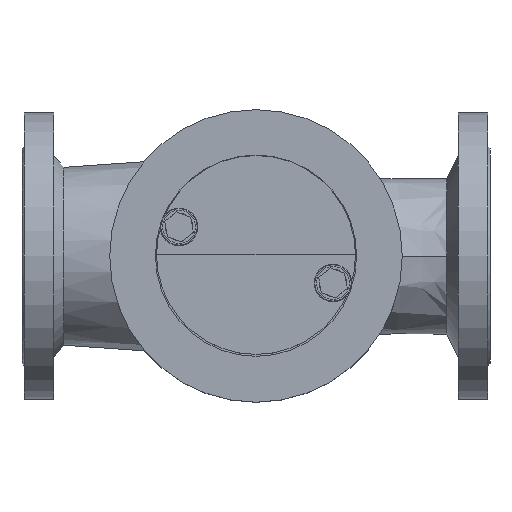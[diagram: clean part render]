
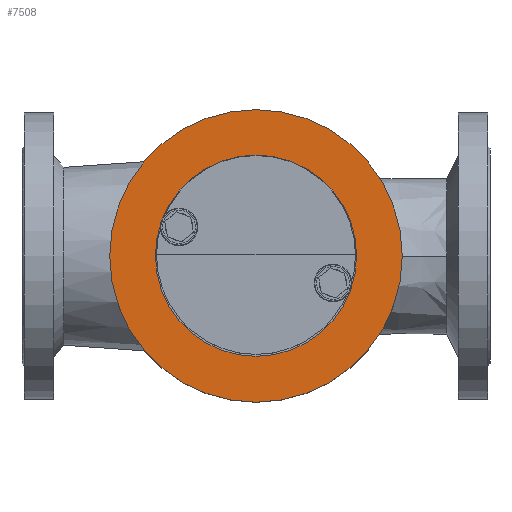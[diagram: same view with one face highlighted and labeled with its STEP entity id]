
A CAD part, top view. The second image highlights one B-rep face of the part: STEP entity #7508.
In plain terms, the highlighted planar face has unit normal (0, 0, 1).
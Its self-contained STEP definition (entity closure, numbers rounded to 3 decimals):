
#1292=FACE_BOUND('',#1917,.T.);
#1362=FACE_OUTER_BOUND('',#1916,.T.);
#1916=EDGE_LOOP('',(#4939,#4940));
#1917=EDGE_LOOP('',(#4941,#4942));
#2479=CIRCLE('',#8169,125.);
#2480=CIRCLE('',#8170,125.);
#2481=CIRCLE('',#8171,22.5);
#2482=CIRCLE('',#8172,22.5);
#3115=VERTEX_POINT('',#11780);
#3116=VERTEX_POINT('',#11781);
#3117=VERTEX_POINT('',#11784);
#3118=VERTEX_POINT('',#11785);
#3738=EDGE_CURVE('',#3115,#3116,#2479,.T.);
#3739=EDGE_CURVE('',#3116,#3115,#2480,.T.);
#3740=EDGE_CURVE('',#3117,#3118,#2481,.T.);
#3741=EDGE_CURVE('',#3118,#3117,#2482,.T.);
#4939=ORIENTED_EDGE('',*,*,#3738,.T.);
#4940=ORIENTED_EDGE('',*,*,#3739,.T.);
#4941=ORIENTED_EDGE('',*,*,#3740,.T.);
#4942=ORIENTED_EDGE('',*,*,#3741,.T.);
#6757=PLANE('',#8168);
#7508=ADVANCED_FACE('',(#1362,#1292),#6757,.T.);
#8168=AXIS2_PLACEMENT_3D('',#11779,#9391,#9392);
#8169=AXIS2_PLACEMENT_3D('',#11782,#9393,#9394);
#8170=AXIS2_PLACEMENT_3D('',#11783,#9395,#9396);
#8171=AXIS2_PLACEMENT_3D('',#11786,#9397,#9398);
#8172=AXIS2_PLACEMENT_3D('',#11787,#9399,#9400);
#9391=DIRECTION('center_axis',(0.,0.,1.));
#9392=DIRECTION('ref_axis',(0.,1.,0.));
#9393=DIRECTION('center_axis',(0.,0.,1.));
#9394=DIRECTION('ref_axis',(1.,0.,0.));
#9395=DIRECTION('center_axis',(0.,0.,1.));
#9396=DIRECTION('ref_axis',(1.,0.,0.));
#9397=DIRECTION('center_axis',(0.,0.,-1.));
#9398=DIRECTION('ref_axis',(1.,0.,0.));
#9399=DIRECTION('center_axis',(0.,0.,-1.));
#9400=DIRECTION('ref_axis',(1.,0.,0.));
#11779=CARTESIAN_POINT('Origin',(125.,0.,155.5));
#11780=CARTESIAN_POINT('',(-125.,0.,155.5));
#11781=CARTESIAN_POINT('',(125.,0.,155.5));
#11782=CARTESIAN_POINT('Origin',(0.,0.,155.5));
#11783=CARTESIAN_POINT('Origin',(0.,0.,155.5));
#11784=CARTESIAN_POINT('',(-22.5,0.,155.5));
#11785=CARTESIAN_POINT('',(22.5,0.,155.5));
#11786=CARTESIAN_POINT('Origin',(0.,0.,155.5));
#11787=CARTESIAN_POINT('Origin',(0.,0.,155.5));
